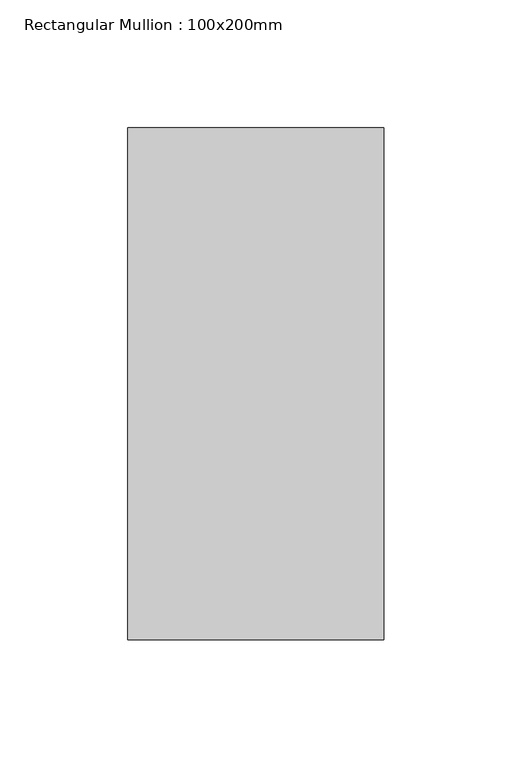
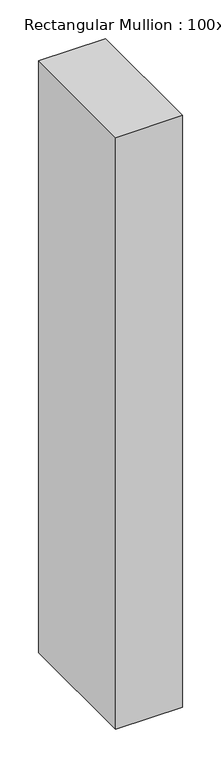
"""IFC4 building model written with IfcOpenShell, lengths in millimetres: member geometry, Rectangular Mullion : 100x200mm."""

from ifc_helpers import new_model, si_unit, frame, origin, place, context, project, spatial, polyline, outline, extrude, source, transform, mapped, element, save


def rectangular_mullion_100x200mm_17ba24a7(model_context):
    return source(origin(), model_context, "Body", "SweptSolid", [
        extrude(outline(polyline([(0.0, 100.0), (0.0, -100.0), (-100.0, -100.0), (-100.0, 100.0), (0.0, 100.0)])), frame((0.0, 0.0, -935.0006915), z_axis=(0.0, 0.0, 1.0), x_axis=(1.0, 0.0, 0.0)), (0.0, 0.0, 1.0), 935.0006915),
    ])


if __name__ == "__main__":
    model = new_model("IFC4")
    model_context = context("Model", 3, world=origin())
    ifc_project = project(units=[si_unit("LENGTHUNIT", "METRE", prefix="MILLI")], contexts=[model_context])
    site = spatial("IfcSite", under=ifc_project)
    building = spatial("IfcBuilding", under=site)
    placement = place(None, origin())
    rectangular_mullion_100x200mm_shape = rectangular_mullion_100x200mm_17ba24a7(model_context)
    element("IfcMember", 1, ObjectType="Rectangular Mullion : 100x200mm", at=placement, inside=building, context=model_context, shape_type="MappedRepresentation", body=[
        mapped(rectangular_mullion_100x200mm_shape, transform((0.0, 0.0, 0.0), x_axis=(1.0, 0.0, 0.0), y_axis=(0.0, 1.0, 0.0), z_axis=(0.0, 0.0, 1.0))),
    ])
    save(model, "model.ifc")
